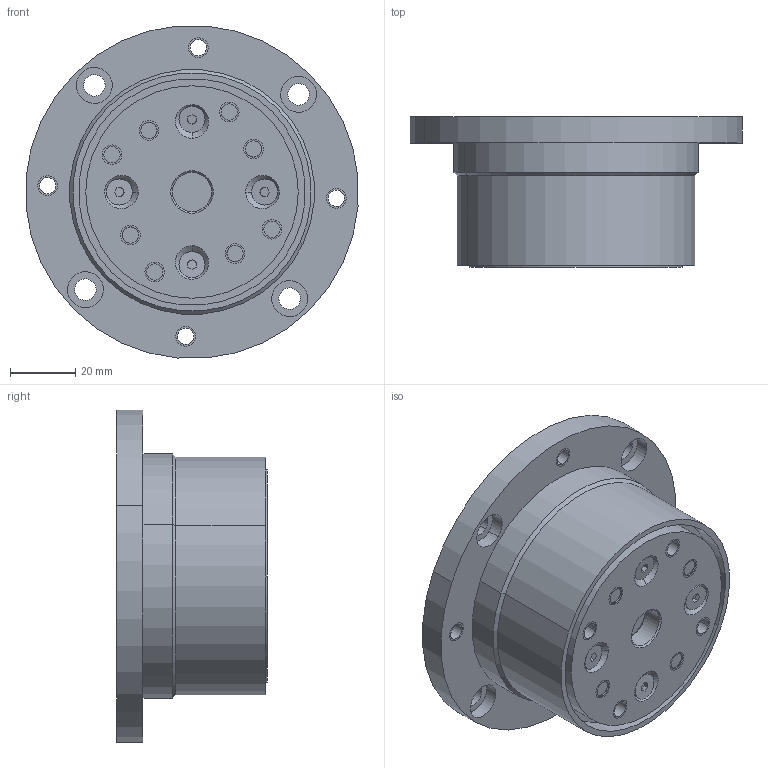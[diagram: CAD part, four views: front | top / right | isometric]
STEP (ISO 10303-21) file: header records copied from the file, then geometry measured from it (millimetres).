
FILE_DESCRIPTION((''),'2;1');
FILE_NAME('B6-070-065','2018-02-27T',('CSW'),(''),'CREO PARAMETRIC BY PTC INC, 2016260','CREO PARAMETRIC BY PTC INC, 2016260','');
FILE_SCHEMA(('AUTOMOTIVE_DESIGN { 1 0 10303 214 1 1 1 1 }'));
Length unit declared in the file: millimetre
Products named in the file (1): B6-070-065
Bounding box: 101.61 x 46 x 101.61 mm (x, y, z)
Volume: 217569.3 mm3; surface area: 37763.6 mm2
Topology: 1 solids, 53 shells, 533 faces, 1184 edges, 738 vertices
Faces by surface type: cylinder 230, plane 207, cone 80, torus 16
Entity records: 15095 total; most frequent: CARTESIAN_POINT 2801, DIRECTION 2766, ORIENTED_EDGE 2208, EDGE_CURVE 1168, AXIS2_PLACEMENT_3D 1096, VERTEX_POINT 738, EDGE_LOOP 634, VECTOR 574
